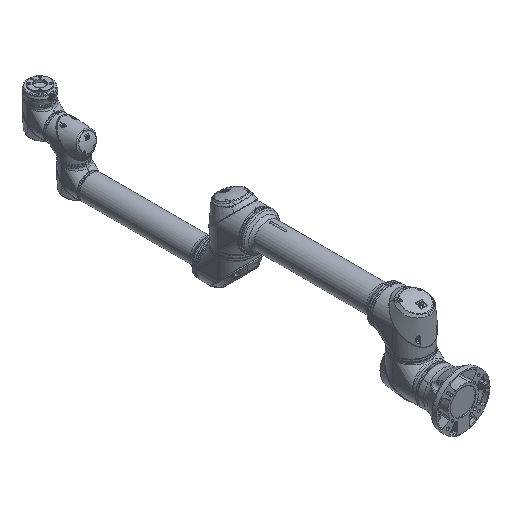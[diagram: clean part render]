
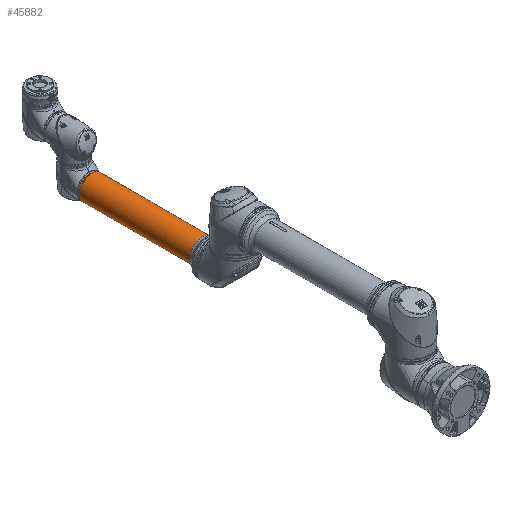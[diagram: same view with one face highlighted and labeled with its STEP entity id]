
A CAD part, isometric view. The second image highlights one B-rep face of the part: STEP entity #45882.
In plain terms, the highlighted cylindrical face has radius 39 mm (diameter 78 mm), a full revolution.
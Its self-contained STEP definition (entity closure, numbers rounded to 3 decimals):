
#4810=CYLINDRICAL_SURFACE('',#49773,39.);
#9003=FACE_OUTER_BOUND('',#11791,.T.);
#11791=EDGE_LOOP('',(#37847,#37848,#37849,#37850,#37851));
#14190=CIRCLE('',#49771,39.);
#14192=CIRCLE('',#49774,39.);
#14193=CIRCLE('',#49775,39.);
#16016=LINE('',#200788,#18189);
#18189=VECTOR('',#56849,39.);
#21632=VERTEX_POINT('',#200780);
#21634=VERTEX_POINT('',#200785);
#21635=VERTEX_POINT('',#200786);
#27305=EDGE_CURVE('',#21632,#21632,#14190,.T.);
#27307=EDGE_CURVE('',#21634,#21635,#14192,.T.);
#27308=EDGE_CURVE('',#21635,#21632,#16016,.T.);
#27309=EDGE_CURVE('',#21635,#21634,#14193,.T.);
#37847=ORIENTED_EDGE('',*,*,#27307,.T.);
#37848=ORIENTED_EDGE('',*,*,#27308,.T.);
#37849=ORIENTED_EDGE('',*,*,#27305,.F.);
#37850=ORIENTED_EDGE('',*,*,#27308,.F.);
#37851=ORIENTED_EDGE('',*,*,#27309,.T.);
#45882=ADVANCED_FACE('',(#9003),#4810,.T.);
#49771=AXIS2_PLACEMENT_3D('',#200781,#56841,#56842);
#49773=AXIS2_PLACEMENT_3D('',#200784,#56845,#56846);
#49774=AXIS2_PLACEMENT_3D('',#200787,#56847,#56848);
#49775=AXIS2_PLACEMENT_3D('',#200789,#56850,#56851);
#56841=DIRECTION('center_axis',(0.,1.,0.));
#56842=DIRECTION('ref_axis',(-1.,0.,0.009));
#56845=DIRECTION('center_axis',(0.,-1.,0.));
#56846=DIRECTION('ref_axis',(-1.,0.,0.009));
#56847=DIRECTION('center_axis',(0.,1.,0.));
#56848=DIRECTION('ref_axis',(-1.,0.,0.009));
#56849=DIRECTION('',(0.,1.,0.));
#56850=DIRECTION('center_axis',(0.,1.,0.));
#56851=DIRECTION('ref_axis',(-1.,0.,0.009));
#200780=CARTESIAN_POINT('',(37.499,-11.,-0.34));
#200781=CARTESIAN_POINT('Origin',(-1.5,-11.,0.));
#200784=CARTESIAN_POINT('Origin',(-1.5,0.,
0.));
#200785=CARTESIAN_POINT('',(-40.5,-370.419,0.));
#200786=CARTESIAN_POINT('',(37.499,-370.419,-0.34));
#200787=CARTESIAN_POINT('Origin',(-1.5,-370.419,0.));
#200788=CARTESIAN_POINT('',(37.499,0.,-0.34));
#200789=CARTESIAN_POINT('Origin',(-1.5,-370.419,0.));
